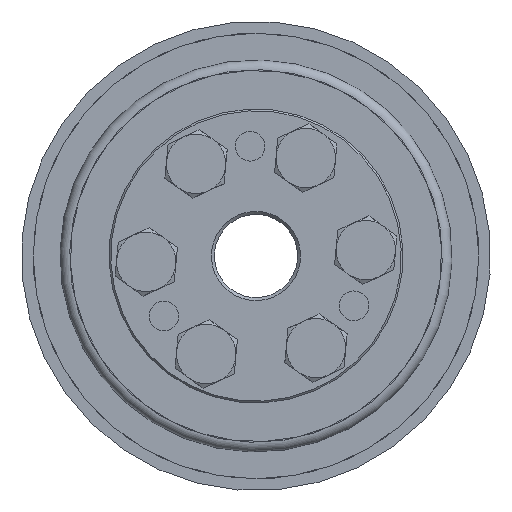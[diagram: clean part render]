
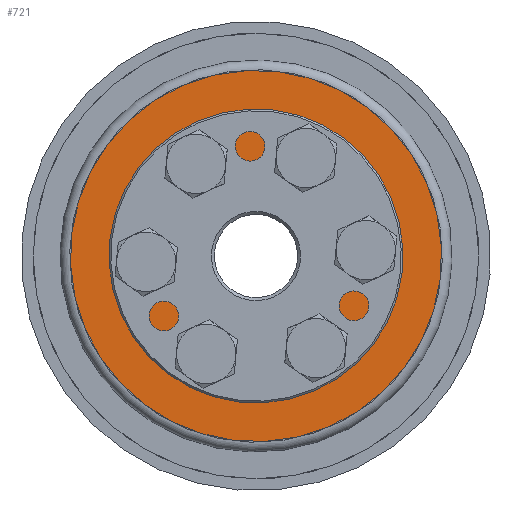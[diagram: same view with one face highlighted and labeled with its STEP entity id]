
A CAD part, left-side view. The second image highlights one B-rep face of the part: STEP entity #721.
In plain terms, the highlighted planar face has unit normal (-1, 0, 0) as drawn and (1, 0, 0) by its records, which use the part's own axes.
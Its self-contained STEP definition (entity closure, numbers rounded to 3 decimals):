
#721 = ADVANCED_FACE( 'NONE', ( #1439, #1440, #1441, #1442, #1443, #1444, #1445, #1446 ), #1447, .F. );
#1439 = FACE_OUTER_BOUND( '', #2436, .T. );
#1440 = FACE_BOUND( '', #2437, .T. );
#1441 = FACE_BOUND( '', #2438, .T. );
#1442 = FACE_BOUND( '', #2439, .T. );
#1443 = FACE_BOUND( '', #2440, .T. );
#1444 = FACE_BOUND( '', #2441, .T. );
#1445 = FACE_BOUND( '', #2442, .T. );
#1446 = FACE_BOUND( '', #2443, .T. );
#1447 = PLANE( '', #2444 );
#2436 = EDGE_LOOP( '', ( #3428 ) );
#2437 = EDGE_LOOP( '', ( #3429 ) );
#2438 = EDGE_LOOP( '', ( #3430 ) );
#2439 = EDGE_LOOP( '', ( #3431 ) );
#2440 = EDGE_LOOP( '', ( #3432 ) );
#2441 = EDGE_LOOP( '', ( #3433 ) );
#2442 = EDGE_LOOP( '', ( #3434 ) );
#2443 = EDGE_LOOP( '', ( #3435 ) );
#2444 = AXIS2_PLACEMENT_3D( '', #3436, #3437, #3438 );
#3428 = ORIENTED_EDGE( '', *, *, #4859, .F. );
#3429 = ORIENTED_EDGE( '', *, *, #4860, .F. );
#3430 = ORIENTED_EDGE( '', *, *, #4861, .T. );
#3431 = ORIENTED_EDGE( '', *, *, #4862, .F. );
#3432 = ORIENTED_EDGE( '', *, *, #4824, .F. );
#3433 = ORIENTED_EDGE( '', *, *, #4863, .F. );
#3434 = ORIENTED_EDGE( '', *, *, #4800, .F. );
#3435 = ORIENTED_EDGE( '', *, *, #4864, .F. );
#3436 = CARTESIAN_POINT( '', ( 16., 31.25, 0. ) );
#3437 = DIRECTION( '', ( -1., 0., 0. ) );
#3438 = DIRECTION( '', ( 0., 0., 1. ) );
#4800 = EDGE_CURVE( 'NONE', #5391, #5391, #5392, .T. );
#4824 = EDGE_CURVE( 'NONE', #5429, #5429, #5430, .T. );
#4859 = EDGE_CURVE( 'NONE', #5485, #5485, #5486, .T. );
#4860 = EDGE_CURVE( 'NONE', #5487, #5487, #5488, .T. );
#4861 = EDGE_CURVE( 'NONE', #5489, #5489, #5490, .T. );
#4862 = EDGE_CURVE( 'NONE', #5491, #5491, #5492, .T. );
#4863 = EDGE_CURVE( 'NONE', #5493, #5493, #5494, .T. );
#4864 = EDGE_CURVE( 'NONE', #5495, #5495, #5496, .T. );
#5391 = VERTEX_POINT( '', #6229 );
#5392 = CIRCLE( '', #6230, 3. );
#5429 = VERTEX_POINT( '', #6273 );
#5430 = CIRCLE( '', #6274, 3. );
#5485 = VERTEX_POINT( '', #6341 );
#5486 = CIRCLE( '', #6342, 31.25 );
#5487 = VERTEX_POINT( '', #6343 );
#5488 = CIRCLE( '', #6344, 3. );
#5489 = VERTEX_POINT( '', #6345 );
#5490 = CIRCLE( '', #6346, 15.1 );
#5491 = VERTEX_POINT( '', #6347 );
#5492 = CIRCLE( '', #6348, 3. );
#5493 = VERTEX_POINT( '', #6349 );
#5494 = CIRCLE( '', #6350, 3. );
#5495 = VERTEX_POINT( '', #6351 );
#5496 = CIRCLE( '', #6352, 3. );
#6229 = CARTESIAN_POINT( '', ( 16., -18.5, -3. ) );
#6230 = AXIS2_PLACEMENT_3D( '', #7479, #7480, #7481 );
#6273 = CARTESIAN_POINT( '', ( 16., 9.25, -19.021 ) );
#6274 = AXIS2_PLACEMENT_3D( '', #7518, #7519, #7520 );
#6341 = CARTESIAN_POINT( '', ( 16., 0., 31.25 ) );
#6342 = AXIS2_PLACEMENT_3D( '', #7578, #7579, #7580 );
#6343 = CARTESIAN_POINT( '', ( 16., -9.25, 13.021 ) );
#6344 = AXIS2_PLACEMENT_3D( '', #7581, #7582, #7583 );
#6345 = CARTESIAN_POINT( '', ( 16., 0., 15.1 ) );
#6346 = AXIS2_PLACEMENT_3D( '', #7584, #7585, #7586 );
#6347 = CARTESIAN_POINT( '', ( 16., 18.5, -3. ) );
#6348 = AXIS2_PLACEMENT_3D( '', #7587, #7588, #7589 );
#6349 = CARTESIAN_POINT( '', ( 16., -9.25, -19.021 ) );
#6350 = AXIS2_PLACEMENT_3D( '', #7590, #7591, #7592 );
#6351 = CARTESIAN_POINT( '', ( 16., 9.25, 13.021 ) );
#6352 = AXIS2_PLACEMENT_3D( '', #7593, #7594, #7595 );
#7479 = CARTESIAN_POINT( '', ( 16., -18.5, 0. ) );
#7480 = DIRECTION( '', ( 1., 0., 0. ) );
#7481 = DIRECTION( '', ( 0., 0., -1. ) );
#7518 = CARTESIAN_POINT( '', ( 16., 9.25, -16.021 ) );
#7519 = DIRECTION( '', ( 1., 0., 0. ) );
#7520 = DIRECTION( '', ( 0., 0., -1. ) );
#7578 = CARTESIAN_POINT( '', ( 16., 0., 0. ) );
#7579 = DIRECTION( '', ( -1., 0., 0. ) );
#7580 = DIRECTION( '', ( 0., 0., 1. ) );
#7581 = CARTESIAN_POINT( '', ( 16., -9.25, 16.021 ) );
#7582 = DIRECTION( '', ( 1., 0., 0. ) );
#7583 = DIRECTION( '', ( 0., 0., -1. ) );
#7584 = CARTESIAN_POINT( '', ( 16., 0., 0. ) );
#7585 = DIRECTION( '', ( -1., 0., 0. ) );
#7586 = DIRECTION( '', ( 0., 0., 1. ) );
#7587 = CARTESIAN_POINT( '', ( 16., 18.5, 0. ) );
#7588 = DIRECTION( '', ( 1., 0., 0. ) );
#7589 = DIRECTION( '', ( 0., 0., -1. ) );
#7590 = CARTESIAN_POINT( '', ( 16., -9.25, -16.021 ) );
#7591 = DIRECTION( '', ( 1., 0., 0. ) );
#7592 = DIRECTION( '', ( 0., 0., -1. ) );
#7593 = CARTESIAN_POINT( '', ( 16., 9.25, 16.021 ) );
#7594 = DIRECTION( '', ( 1., 0., 0. ) );
#7595 = DIRECTION( '', ( 0., 0., -1. ) );
